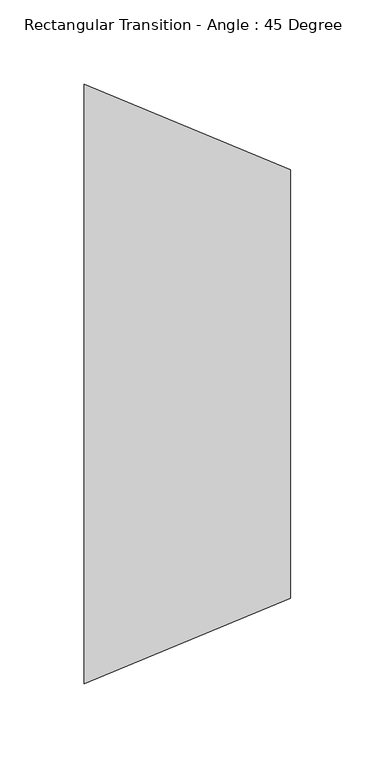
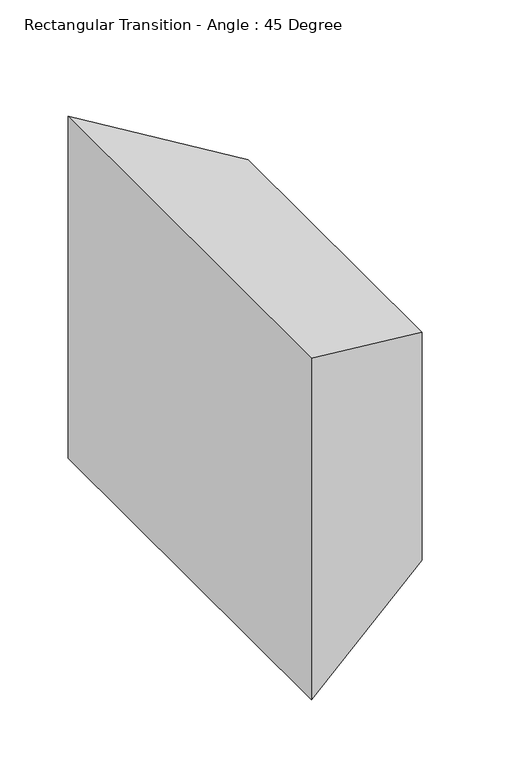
"""IFC4 building model written with IfcOpenShell, lengths in millimetres: duct fitting geometry, Rectangular Transition - Angle : 45 Degree."""

from ifc_helpers import new_model, si_unit, origin, place, context, project, spatial, faceted_brep, source, transform, mapped, element, save


def rectangular_transition_angle_45_degree_183635ce(model_context):
    return source(origin(), model_context, "Body", "Brep", [
        faceted_brep([(122.642049, -127.0, 101.6), (122.642049, -127.0, -101.6), (122.642049, 127.0, -101.6), (122.642049, 127.0, 101.6), (0.0, -177.8, 152.4), (0.0, 177.8, 152.4), (0.0, 177.8, -152.4), (0.0, -177.8, -152.4)], [[[0, 1, 2, 3]], [[4, 5, 6, 7]], [[4, 7, 1, 0]], [[7, 6, 2, 1]], [[6, 5, 3, 2]], [[5, 4, 0, 3]]]),
    ])


if __name__ == "__main__":
    model = new_model("IFC4")
    model_context = context("Model", 3, world=origin())
    ifc_project = project(units=[si_unit("LENGTHUNIT", "METRE", prefix="MILLI")], contexts=[model_context])
    site = spatial("IfcSite", under=ifc_project)
    building = spatial("IfcBuilding", under=site)
    placement = place(None, origin())
    rectangular_transition_angle_45_degree_shape = rectangular_transition_angle_45_degree_183635ce(model_context)
    element("IfcDuctFitting", 1, ObjectType="Rectangular Transition - Angle : 45 Degree", at=placement, inside=building, context=model_context, shape_type="MappedRepresentation", body=[
        mapped(rectangular_transition_angle_45_degree_shape, transform((0.0, 0.0, 0.0), x_axis=(1.0, 0.0, 0.0), y_axis=(0.0, 1.0, 0.0), z_axis=(0.0, 0.0, 1.0))),
    ])
    save(model, "model.ifc")
